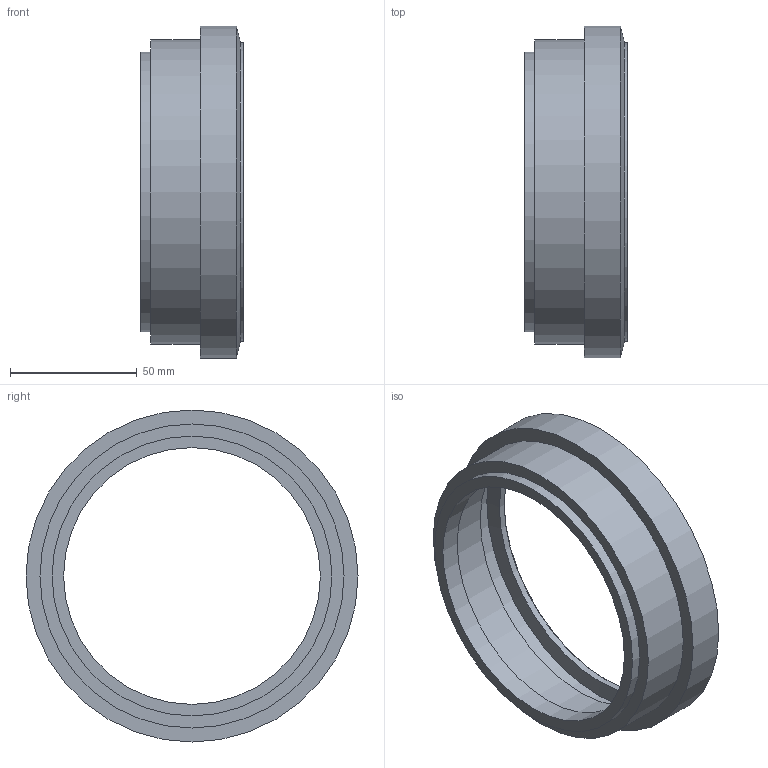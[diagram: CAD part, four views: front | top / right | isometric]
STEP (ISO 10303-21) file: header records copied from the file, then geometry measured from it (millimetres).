
FILE_DESCRIPTION(/* description */ (''),/* implementation_level */ '2;1');
FILE_NAME(/* name */ 'Z:\Geberit\Export\NewStep\367794.stp',/* time_stamp */ '2014-04-02T07:58:30+02:00',/* author */ ('nelson'),/* organization */ (''),/* preprocessor_version */ 'ST-DEVELOPER v15.2',/* originating_system */ 'Autodesk Inventor 2014',/* authorisation */ '');
FILE_SCHEMA (('AUTOMOTIVE_DESIGN { 1 0 10303 214 3 1 1 }'));
Length unit declared in the file: millimetre
Products named in the file (1): 367794
Bounding box: 40.5 x 131 x 131 mm (x, y, z)
Volume: 73552.9 mm3; surface area: 44479 mm2
Topology: 1 solids, 1 shells, 17 faces, 28 edges, 17 vertices
Faces by surface type: cylinder 8, plane 6, cone 3
Full cylindrical faces by diameter (mm): 101.34 x1, 110.4 x1, 111.75 x1, 112.5 x1, 118 x1, 120 x1, 124.75 x1, 131 x1
Entity records: 369 total; most frequent: DIRECTION 70, CARTESIAN_POINT 52, AXIS2_PLACEMENT_3D 35, EDGE_LOOP 34, ORIENTED_EDGE 34, FACE_BOUND 20, CIRCLE 17, VERTEX_POINT 17
